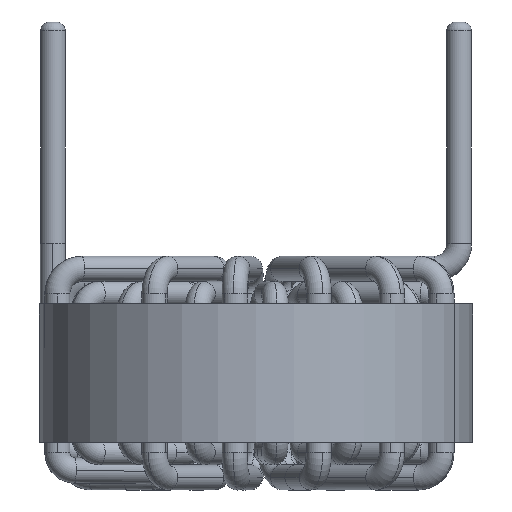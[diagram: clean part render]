
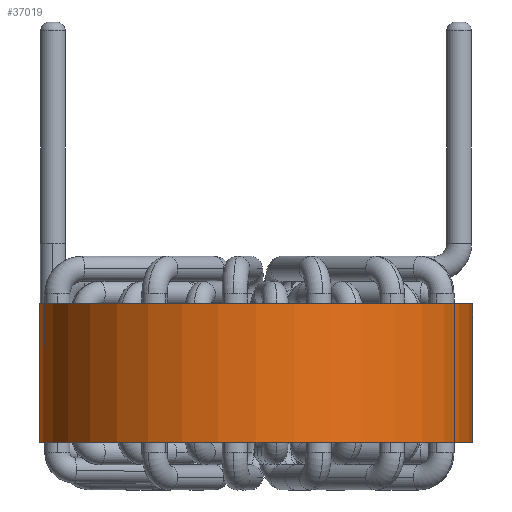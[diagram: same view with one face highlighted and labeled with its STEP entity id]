
A CAD part, front view. The second image highlights one B-rep face of the part: STEP entity #37019.
In plain terms, the highlighted cylindrical face has radius 25.05 mm (diameter 50.1 mm), a partial arc.
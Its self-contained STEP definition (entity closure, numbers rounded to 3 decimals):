
#307 = CARTESIAN_POINT ( 'NONE',  ( -25.05, 0., -8. ) ) ;
#368 = EDGE_CURVE ( 'NONE', #15936, #5716, #28529, .T. ) ;
#508 = EDGE_CURVE ( 'NONE', #39032, #42725, #23202, .T. ) ;
#937 = ORIENTED_EDGE ( 'NONE', *, *, #41820, .F. ) ;
#2230 = FACE_OUTER_BOUND ( 'NONE', #8183, .T. ) ;
#2809 = ORIENTED_EDGE ( 'NONE', *, *, #368, .F. ) ;
#3013 = CIRCLE ( 'NONE', #30220, 25.05 ) ;
#5716 = VERTEX_POINT ( 'NONE', #12650 ) ;
#8183 = EDGE_LOOP ( 'NONE', ( #2809, #937, #43548, #13142 ) ) ;
#9544 = DIRECTION ( 'NONE',  ( 0., 0., -1. ) ) ;
#11524 = CARTESIAN_POINT ( 'NONE',  ( -25.05, 0., 8. ) ) ;
#11872 = DIRECTION ( 'NONE',  ( 0., 0., -1. ) ) ;
#12650 = CARTESIAN_POINT ( 'NONE',  ( 25.05, 0., -8. ) ) ;
#13142 = ORIENTED_EDGE ( 'NONE', *, *, #39496, .T. ) ;
#14028 = CARTESIAN_POINT ( 'NONE',  ( 25.05, 0., 8. ) ) ;
#15936 = VERTEX_POINT ( 'NONE', #14028 ) ;
#17146 = DIRECTION ( 'NONE',  ( 0., 0., 1. ) ) ;
#17820 = CYLINDRICAL_SURFACE ( 'NONE', #22407, 25.05 ) ;
#18737 = DIRECTION ( 'NONE',  ( -1., 0., 0. ) ) ;
#18928 = AXIS2_PLACEMENT_3D ( 'NONE', #40141, #17146, #37898 ) ;
#22407 = AXIS2_PLACEMENT_3D ( 'NONE', #32300, #11872, #18737 ) ;
#23202 = LINE ( 'NONE', #43561, #31208 ) ;
#24110 = DIRECTION ( 'NONE',  ( 0., 0., 1. ) ) ;
#25365 = CARTESIAN_POINT ( 'NONE',  ( 25.05, 0., 8. ) ) ;
#27477 = VECTOR ( 'NONE', #38800, 1000. ) ;
#28529 = LINE ( 'NONE', #25365, #27477 ) ;
#30220 = AXIS2_PLACEMENT_3D ( 'NONE', #34571, #24110, #34123 ) ;
#30597 = CIRCLE ( 'NONE', #18928, 25.05 ) ;
#31208 = VECTOR ( 'NONE', #9544, 1000. ) ;
#32300 = CARTESIAN_POINT ( 'NONE',  ( 0., 0., 8. ) ) ;
#34123 = DIRECTION ( 'NONE',  ( 1., 0., 0. ) ) ;
#34571 = CARTESIAN_POINT ( 'NONE',  ( 0., 0., -8. ) ) ;
#37019 = ADVANCED_FACE ( 'NONE', ( #2230 ), #17820, .T. ) ;
#37898 = DIRECTION ( 'NONE',  ( 1., 0., 0. ) ) ;
#38800 = DIRECTION ( 'NONE',  ( 0., 0., -1. ) ) ;
#39032 = VERTEX_POINT ( 'NONE', #11524 ) ;
#39496 = EDGE_CURVE ( 'NONE', #42725, #5716, #3013, .T. ) ;
#40141 = CARTESIAN_POINT ( 'NONE',  ( 0., 0., 8. ) ) ;
#41820 = EDGE_CURVE ( 'NONE', #39032, #15936, #30597, .T. ) ;
#42725 = VERTEX_POINT ( 'NONE', #307 ) ;
#43548 = ORIENTED_EDGE ( 'NONE', *, *, #508, .T. ) ;
#43561 = CARTESIAN_POINT ( 'NONE',  ( -25.05, 0., 8. ) ) ;
